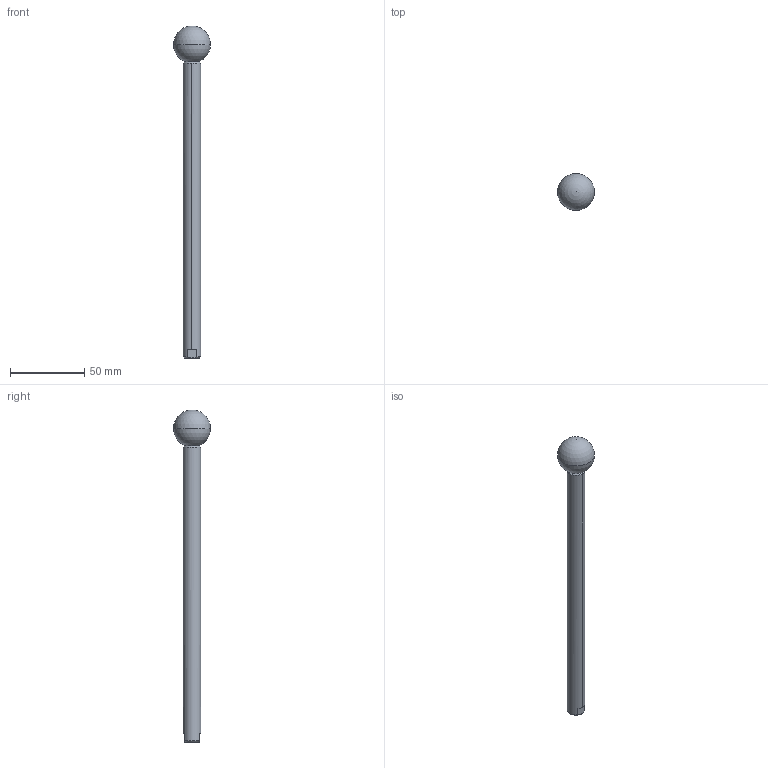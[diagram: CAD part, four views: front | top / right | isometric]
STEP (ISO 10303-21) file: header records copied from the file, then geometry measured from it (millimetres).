
FILE_DESCRIPTION (( 'STEP AP203' ), '1' );
FILE_NAME ('qlrcs-12200.STEP', '2021-10-21T08:20:32', ( '' ), ( '' ), 'SwSTEP 2.0', 'SolidWorks 2020', '' );
FILE_SCHEMA (( 'CONFIG_CONTROL_DESIGN' ));
Length unit declared in the file: millimetre
Products named in the file (1): qlrcs-12200
Bounding box: 24.98 x 24.98 x 224 mm (x, y, z)
Volume: 30336.6 mm3; surface area: 9745.6 mm2
Topology: 1 solids, 1 shells, 20 faces, 47 edges, 29 vertices
Faces by surface type: cylinder 6, cone 6, plane 6, sphere 2
Entity records: 641 total; most frequent: CARTESIAN_POINT 121, DIRECTION 102, ORIENTED_EDGE 84, AXIS2_PLACEMENT_3D 43, EDGE_CURVE 42, VERTEX_POINT 26, CIRCLE 22, EDGE_LOOP 22
